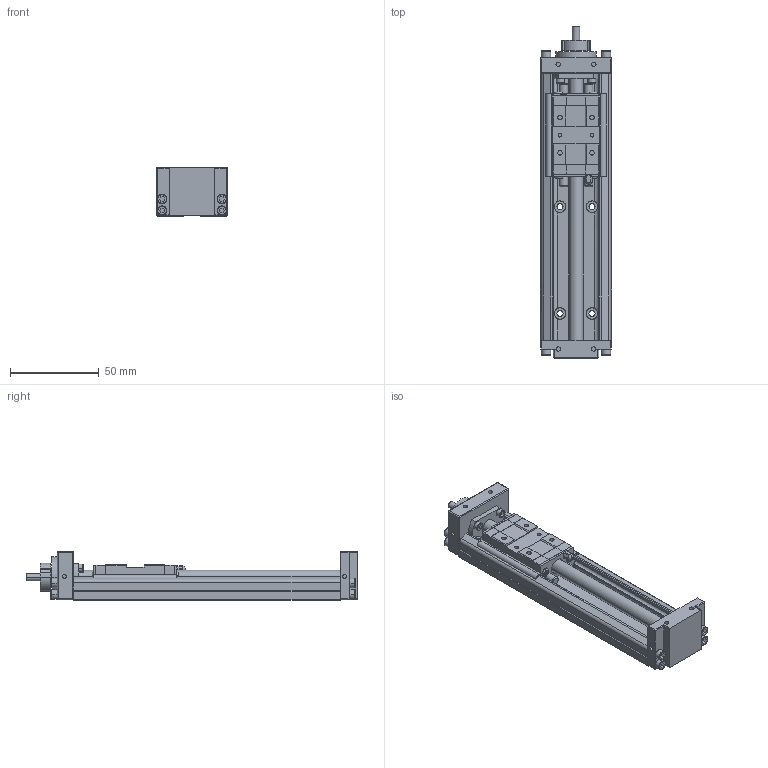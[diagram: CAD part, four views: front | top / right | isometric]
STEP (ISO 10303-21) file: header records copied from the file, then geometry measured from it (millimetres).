
FILE_DESCRIPTION(('no description'),'unknown implementation level');
FILE_NAME('KK4001P150A1H0000_FILE_2.stp',' ',('HIWIN GmbH'),('CADClick - KiM GmbH - www.kimweb.de'),'unknown preprocess','ACIS','unknown authorization');
FILE_SCHEMA(('automotive_design'));
Length unit declared in the file: millimetre
Products named in the file (2): KK40_FILE; KK4001P150A1H0000_FILE
Bounding box: 40 x 186.5 x 27.5 mm (x, y, z)
Volume: 87578.5 mm3; surface area: 38608.8 mm2
Topology: 2 solids, 14 shells, 727 faces, 1841 edges, 1186 vertices
Faces by surface type: plane 446, cylinder 237, torus 42, sphere 2
Entity records: 43578 total; most frequent: CARTESIAN_POINT 4528, DIRECTION 3872, STYLED_ITEM 3756, PRESENTATION_STYLE_ASSIGNMENT 3756, COLOUR_RGB 3756, ORIENTED_EDGE 3682, EDGE_CURVE 1841, CURVE_STYLE 1841
